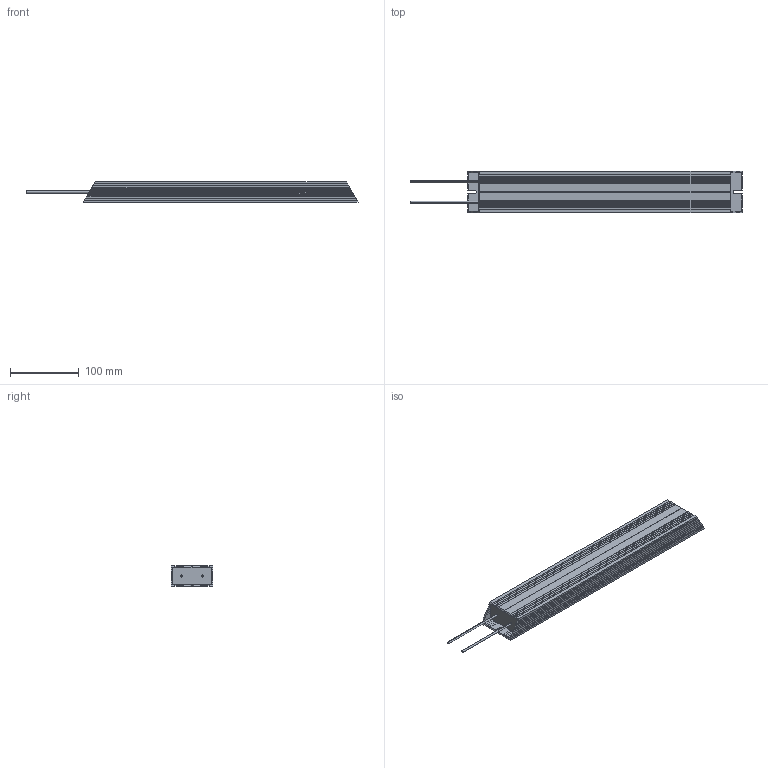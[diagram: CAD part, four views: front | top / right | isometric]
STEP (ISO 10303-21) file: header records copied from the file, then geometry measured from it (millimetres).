
FILE_DESCRIPTION (( 'STEP AP203' ), '1' );
FILE_NAME ('Ðåçèñòîð òîðìîçíîé _ IBRA-120-1000-IP54.STEP', '2025-07-02T10:25:33', ( '' ), ( '' ), 'SwSTEP 2.0', 'SolidWorks 2021', '' );
FILE_SCHEMA (( 'CONFIG_CONTROL_DESIGN' ));
Length unit declared in the file: millimetre
Products named in the file (1): Ðåçèñòîð òîðìîçíîé _ IBRA-120-1000-IP54
Bounding box: 483.8 x 60 x 30 mm (x, y, z)
Volume: 660952.9 mm3; surface area: 110788.3 mm2
Topology: 1 solids, 1 shells, 199 faces, 585 edges, 390 vertices
Faces by surface type: plane 142, cylinder 57
Entity records: 6584 total; most frequent: CARTESIAN_POINT 1493, ORIENTED_EDGE 1170, DIRECTION 897, EDGE_CURVE 585, VECTOR 469, LINE 469, VERTEX_POINT 390, AXIS2_PLACEMENT_3D 214
